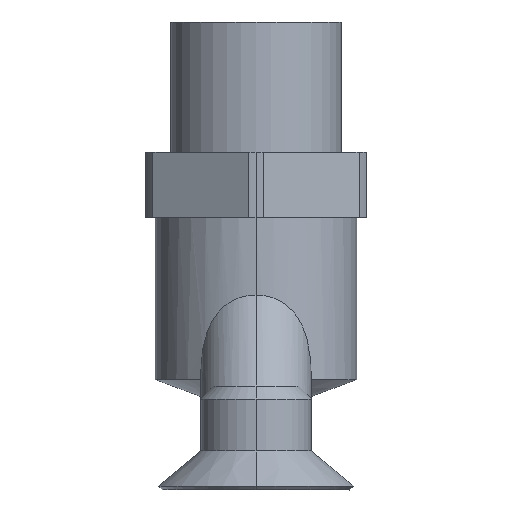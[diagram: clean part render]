
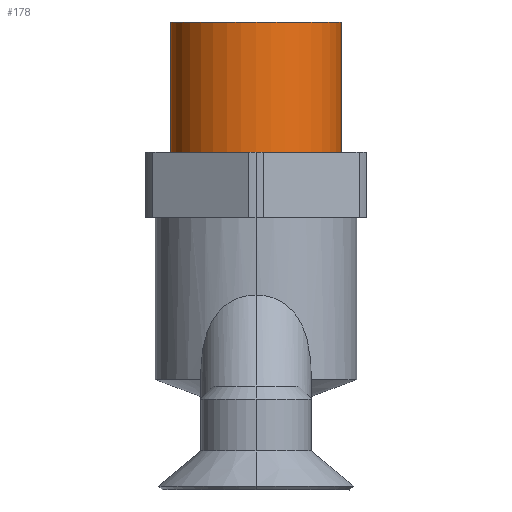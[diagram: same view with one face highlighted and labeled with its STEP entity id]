
A CAD part, left-side view. The second image highlights one B-rep face of the part: STEP entity #178.
In plain terms, the highlighted cylindrical face has radius 6.58 mm (diameter 13.16 mm), a partial arc.
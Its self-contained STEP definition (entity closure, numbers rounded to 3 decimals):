
#178=ADVANCED_FACE('NONE',(#413),#414,.T.);
#413=FACE_OUTER_BOUND('',#708,.T.);
#414=CYLINDRICAL_SURFACE('',#709,6.58);
#708=EDGE_LOOP('',(#1177,#1178,#1179,#1180));
#709=AXIS2_PLACEMENT_3D('',#1181,#1182,#1183);
#1177=ORIENTED_EDGE('',*,*,#1788,.F.);
#1178=ORIENTED_EDGE('',*,*,#1791,.T.);
#1179=ORIENTED_EDGE('',*,*,#1819,.T.);
#1180=ORIENTED_EDGE('',*,*,#1792,.F.);
#1181=CARTESIAN_POINT('',(0.,0.,10.0));
#1182=DIRECTION('',(0.,0.,-1.0));
#1183=DIRECTION('',(0.,-1.0,0.));
#1788=EDGE_CURVE('NONE',#2157,#2156,#2159,.T.);
#1791=EDGE_CURVE('NONE',#2157,#2162,#2163,.T.);
#1792=EDGE_CURVE('NONE',#2156,#2164,#2165,.T.);
#1819=EDGE_CURVE('NONE',#2162,#2164,#2196,.T.);
#2156=VERTEX_POINT('NONE',#2680);
#2157=VERTEX_POINT('NONE',#2681);
#2159=CIRCLE('',#2683,6.58);
#2162=VERTEX_POINT('NONE',#2686);
#2163=LINE('',#2687,#2688);
#2164=VERTEX_POINT('NONE',#2689);
#2165=LINE('',#2690,#2691);
#2196=CIRCLE('',#2735,6.58);
#2680=CARTESIAN_POINT('',(0.,-6.58,10.0));
#2681=CARTESIAN_POINT('',(0.,6.58,10.0));
#2683=AXIS2_PLACEMENT_3D('',#3303,#3304,#3305);
#2686=CARTESIAN_POINT('',(0.,6.58,0.));
#2687=CARTESIAN_POINT('',(0.,6.58,10.0));
#2688=VECTOR('',#3309,1000.0);
#2689=CARTESIAN_POINT('',(0.,-6.58,0.));
#2690=CARTESIAN_POINT('',(0.,-6.58,10.0));
#2691=VECTOR('',#3310,1000.0);
#2735=AXIS2_PLACEMENT_3D('',#3339,#3340,#3341);
#3303=CARTESIAN_POINT('',(0.,0.,10.0));
#3304=DIRECTION('',(0.,0.,1.0));
#3305=DIRECTION('',(0.,1.0,0.0));
#3309=DIRECTION('',(0.,0.,-1.0));
#3310=DIRECTION('',(0.,0.,-1.0));
#3339=CARTESIAN_POINT('',(0.,0.,0.0));
#3340=DIRECTION('',(0.,0.,1.0));
#3341=DIRECTION('',(0.,-1.0,0.));
